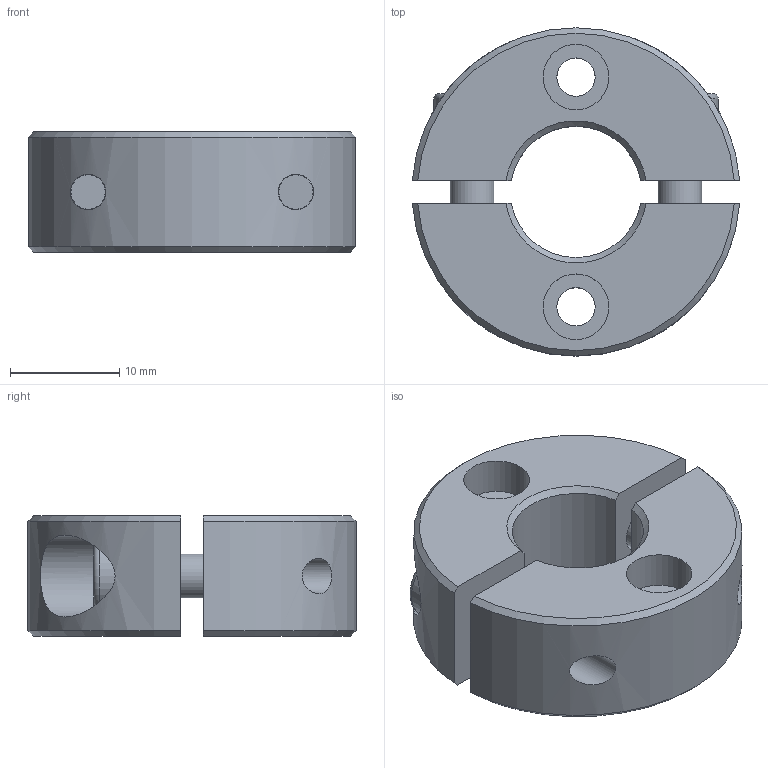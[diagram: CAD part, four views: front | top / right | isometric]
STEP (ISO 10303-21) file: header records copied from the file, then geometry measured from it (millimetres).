
FILE_DESCRIPTION( ( 'STEP AP203' ), '1' );
FILE_NAME( 'C:/Temp/Ganter_Step_05_03_2020/data/3_2/gn7072_2/Split Stainless Steel-Set collar GN 7072.2-30-B12-NI-B.stp', '2020-03-13T05:40:55', ( 'License CC BY-ND 4.0' ), ( 'CADENAS' ), ' ', 'PARTsolutions', ' ' );
FILE_SCHEMA( ( 'CONFIG_CONTROL_DESIGN' ) );
Length unit declared in the file: millimetre
Products named in the file (1): _Split Stainless Steel-Set collar GN 7072.2-30-B12-NI-B
Bounding box: 29.93 x 30 x 11 mm (x, y, z)
Volume: 5374.9 mm3; surface area: 3863.3 mm2
Topology: 1 solids, 1 shells, 62 faces, 143 edges, 97 vertices
Faces by surface type: plane 32, cylinder 18, cone 10, torus 2
Full cylindrical faces by diameter (mm): 3.242 x2, 3.5 x2, 4 x2, 4.4 x2, 6 x2, 7 x2, 7.5 x2
Entity records: 1888 total; most frequent: CARTESIAN_POINT 539, DIRECTION 266, ORIENTED_EDGE 232, EDGE_CURVE 116, AXIS2_PLACEMENT_3D 107, EDGE_LOOP 100, VERTEX_POINT 88, FACE_OUTER_BOUND 78
